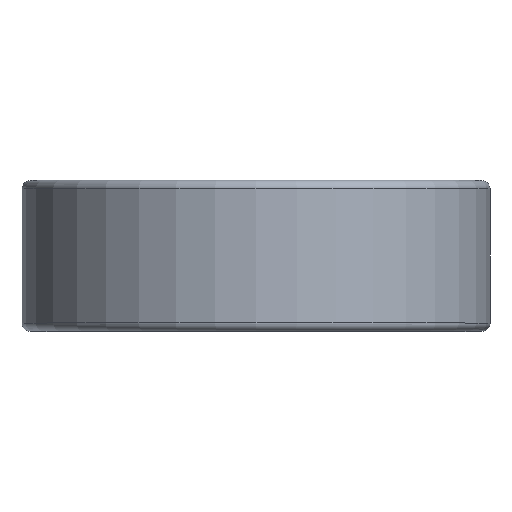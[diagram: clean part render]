
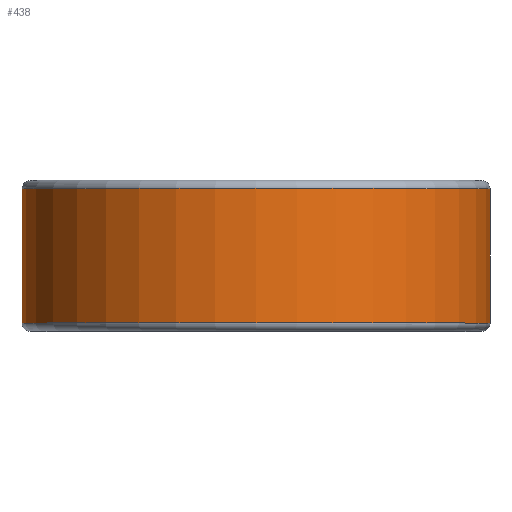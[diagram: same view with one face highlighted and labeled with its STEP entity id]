
A CAD part, top view. The second image highlights one B-rep face of the part: STEP entity #438.
In plain terms, the highlighted cylindrical face has radius 31 mm (diameter 62 mm), a full revolution.
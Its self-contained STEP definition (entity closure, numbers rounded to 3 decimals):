
#101=CYLINDRICAL_SURFACE('',#481,31.);
#116=FACE_BOUND('',#183,.T.);
#146=FACE_OUTER_BOUND('',#182,.T.);
#182=EDGE_LOOP('',(#337));
#183=EDGE_LOOP('',(#338));
#241=CIRCLE('',#480,31.);
#242=CIRCLE('',#482,31.);
#272=VERTEX_POINT('',#737);
#273=VERTEX_POINT('',#740);
#303=EDGE_CURVE('',#272,#272,#241,.T.);
#304=EDGE_CURVE('',#273,#273,#242,.T.);
#337=ORIENTED_EDGE('',*,*,#304,.F.);
#338=ORIENTED_EDGE('',*,*,#303,.F.);
#438=ADVANCED_FACE('',(#146,#116),#101,.T.);
#480=AXIS2_PLACEMENT_3D('',#738,#574,#575);
#481=AXIS2_PLACEMENT_3D('',#739,#576,#577);
#482=AXIS2_PLACEMENT_3D('',#741,#578,#579);
#574=DIRECTION('center_axis',(0.,-1.,0.));
#575=DIRECTION('ref_axis',(0.,0.,-1.));
#576=DIRECTION('center_axis',(0.,1.,0.));
#577=DIRECTION('ref_axis',(0.,0.,1.));
#578=DIRECTION('center_axis',(0.,1.,0.));
#579=DIRECTION('ref_axis',(0.,0.,-1.));
#737=CARTESIAN_POINT('',(0.,-18.9,31.));
#738=CARTESIAN_POINT('Origin',(0.,-18.9,0.));
#739=CARTESIAN_POINT('Origin',(0.,-10.,0.));
#740=CARTESIAN_POINT('',(0.,-1.1,31.));
#741=CARTESIAN_POINT('Origin',(0.,-1.1,0.));
